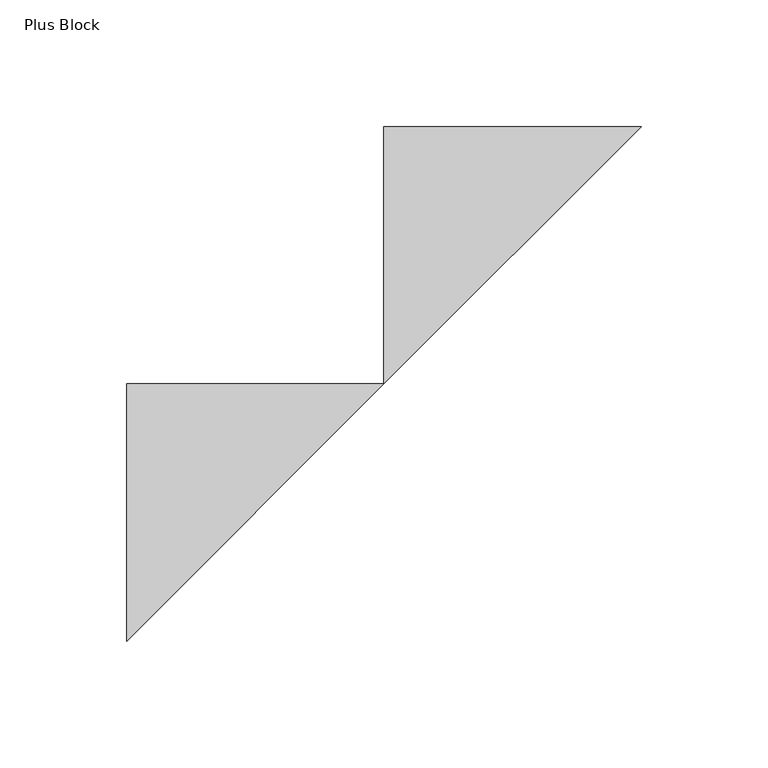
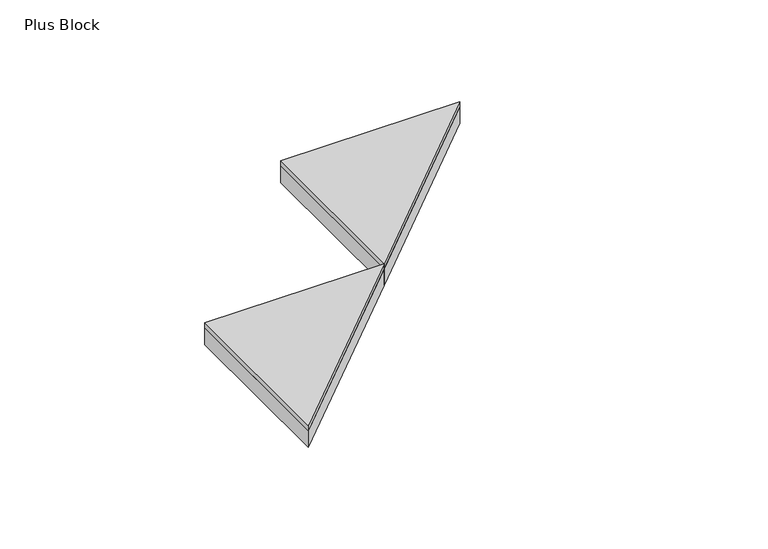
"""IFC4 building model written with IfcOpenShell, lengths in millimetres: proxy geometry, FilzFelt_Plus_Block : Plus Block."""

from ifc_helpers import new_model, si_unit, origin, place, context, project, spatial, faceted_brep, source, transform, mapped, element, save


def plus_block_fb93f7b3(model_context):
    return source(origin(), model_context, "Body", "Brep", [
        faceted_brep([(-152.5, -50.8333333, 10.0210937), (-152.5, 50.8333333, 10.0210937), (-50.8333333, 50.8333333, 10.0210937), (-50.8333333, 152.5, 10.0210937), (50.8333333, 152.5, 10.0210937), (50.8333333, 152.5, 12.9976563), (-50.8333333, 152.5, 12.9976563), (-50.8333333, 50.8333333, 12.9976563), (-152.5, 50.8333333, 12.9976563), (-152.5, -50.8333333, 12.9976563)], [[[0, 1, 2]], [[2, 3, 4]], [[5, 6, 7]], [[7, 8, 9]], [[1, 0, 9, 8]], [[2, 1, 8, 7]], [[3, 2, 7, 6]], [[4, 3, 6, 5]], [[0, 2, 4, 5, 7, 9]]]),
        faceted_brep([(-152.5, -50.8333333, 0.0), (-152.5, 50.8333333, 0.0), (-50.8333333, 50.8333333, 0.0), (-50.8333333, 152.5, 0.0), (50.8333333, 152.5, 0.0), (50.8333333, 152.5, 10.0210937), (-50.8333333, 152.5, 10.0210937), (-50.8333333, 50.8333333, 10.0210937), (-152.5, 50.8333333, 10.0210937), (-152.5, -50.8333333, 10.0210937)], [[[0, 1, 2]], [[2, 3, 4]], [[5, 6, 7]], [[7, 8, 9]], [[1, 0, 9, 8]], [[4, 3, 6, 5]], [[2, 1, 8, 7]], [[3, 2, 7, 6]], [[0, 2, 4, 5, 7, 9]]]),
    ])


if __name__ == "__main__":
    model = new_model("IFC4")
    model_context = context("Model", 3, world=origin())
    ifc_project = project(units=[si_unit("LENGTHUNIT", "METRE", prefix="MILLI")], contexts=[model_context])
    site = spatial("IfcSite", under=ifc_project)
    building = spatial("IfcBuilding", under=site)
    placement = place(None, origin())
    plus_block_shape = plus_block_fb93f7b3(model_context)
    element("IfcBuildingElementProxy", 1, Name="FilzFelt_Plus_Block : Plus Block", ObjectType="FilzFelt_Plus_Block : Plus Block", at=placement, inside=building, context=model_context, shape_type="MappedRepresentation", body=[
        mapped(plus_block_shape, transform((0.0, 0.0, 0.0), x_axis=(1.0, 0.0, 0.0), y_axis=(0.0, 1.0, 0.0), z_axis=(0.0, 0.0, 1.0))),
    ])
    save(model, "model.ifc")
